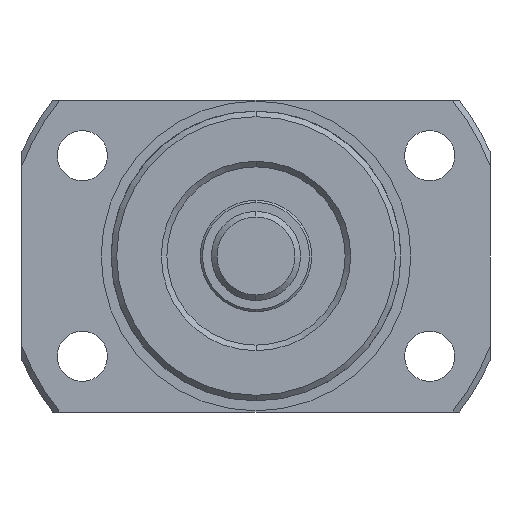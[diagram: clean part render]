
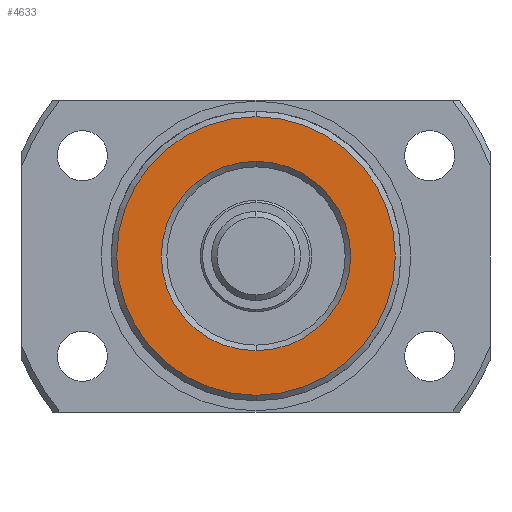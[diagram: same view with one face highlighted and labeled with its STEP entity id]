
A CAD part, left-side view. The second image highlights one B-rep face of the part: STEP entity #4633.
In plain terms, the highlighted planar face has unit normal (-1, 0, 0).
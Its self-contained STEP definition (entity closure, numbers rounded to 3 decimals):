
#599 = AXIS2_PLACEMENT_3D ( 'NONE', #1573, #1572, #1571 ) ;
#623 = AXIS2_PLACEMENT_3D ( 'NONE', #1267, #1266, #1265 ) ;
#954 = DIRECTION ( 'NONE',  ( -1., 0., 0. ) ) ;
#1017 = DIRECTION ( 'NONE',  ( 0., 0., 1. ) ) ;
#1021 = CARTESIAN_POINT ( 'NONE',  ( -40., 0., 0. ) ) ;
#1041 = DIRECTION ( 'NONE',  ( 0., 0., 1. ) ) ;
#1048 = CARTESIAN_POINT ( 'NONE',  ( -40., 0., 0. ) ) ;
#1088 = DIRECTION ( 'NONE',  ( -1., 0., 0. ) ) ;
#1265 = DIRECTION ( 'NONE',  ( 0., 0., 1. ) ) ;
#1266 = DIRECTION ( 'NONE',  ( -1., 0., 0. ) ) ;
#1267 = CARTESIAN_POINT ( 'NONE',  ( -40., 0., 0. ) ) ;
#1295 = CARTESIAN_POINT ( 'NONE',  ( -40., 0., -12.5 ) ) ;
#1298 = CARTESIAN_POINT ( 'NONE',  ( -40., 0., 8.5 ) ) ;
#1452 = CARTESIAN_POINT ( 'NONE',  ( -40., 0., 12.5 ) ) ;
#1571 = DIRECTION ( 'NONE',  ( 0., 0., 1. ) ) ;
#1572 = DIRECTION ( 'NONE',  ( -1., 0., 0. ) ) ;
#1573 = CARTESIAN_POINT ( 'NONE',  ( -40., 0., 0. ) ) ;
#1877 = VERTEX_POINT ( 'NONE', #4126 ) ;
#2263 = CIRCLE ( 'NONE', #2388, 8.5 ) ;
#2377 = AXIS2_PLACEMENT_3D ( 'NONE', #1048, #954, #1017 ) ;
#2388 = AXIS2_PLACEMENT_3D ( 'NONE', #1021, #1088, #1041 ) ;
#2443 = AXIS2_PLACEMENT_3D ( 'NONE', #6023, #5976, #6026 ) ;
#3327 = ORIENTED_EDGE ( 'NONE', *, *, #6051, .T. ) ;
#3388 = ORIENTED_EDGE ( 'NONE', *, *, #4040, .F. ) ;
#3481 = CIRCLE ( 'NONE', #623, 12.5 ) ;
#3521 = CIRCLE ( 'NONE', #599, 8.5 ) ;
#3551 = ORIENTED_EDGE ( 'NONE', *, *, #3944, .T. ) ;
#3560 = EDGE_LOOP ( 'NONE', ( #3327, #3551 ) ) ;
#3772 = ORIENTED_EDGE ( 'NONE', *, *, #5201, .F. ) ;
#3799 = EDGE_LOOP ( 'NONE', ( #3772, #3388 ) ) ;
#3944 = EDGE_CURVE ( 'NONE', #5475, #5794, #5123, .T. ) ;
#4040 = EDGE_CURVE ( 'NONE', #1877, #5796, #2263, .T. ) ;
#4126 = CARTESIAN_POINT ( 'NONE',  ( -40., 0., -8.5 ) ) ;
#4633 = ADVANCED_FACE ( 'NONE', ( #6169, #6146 ), #5845, .F. ) ;
#5123 = CIRCLE ( 'NONE', #2377, 12.5 ) ;
#5201 = EDGE_CURVE ( 'NONE', #5796, #1877, #3521, .T. ) ;
#5475 = VERTEX_POINT ( 'NONE', #1452 ) ;
#5794 = VERTEX_POINT ( 'NONE', #1295 ) ;
#5796 = VERTEX_POINT ( 'NONE', #1298 ) ;
#5845 = PLANE ( 'NONE',  #2443 ) ;
#5976 = DIRECTION ( 'NONE',  ( 1., 0., 0. ) ) ;
#6023 = CARTESIAN_POINT ( 'NONE',  ( -40., 12.5, 0. ) ) ;
#6026 = DIRECTION ( 'NONE',  ( 0., 0., -1. ) ) ;
#6051 = EDGE_CURVE ( 'NONE', #5794, #5475, #3481, .T. ) ;
#6146 = FACE_OUTER_BOUND ( 'NONE', #3560, .T. ) ;
#6169 = FACE_BOUND ( 'NONE', #3799, .T. ) ;
